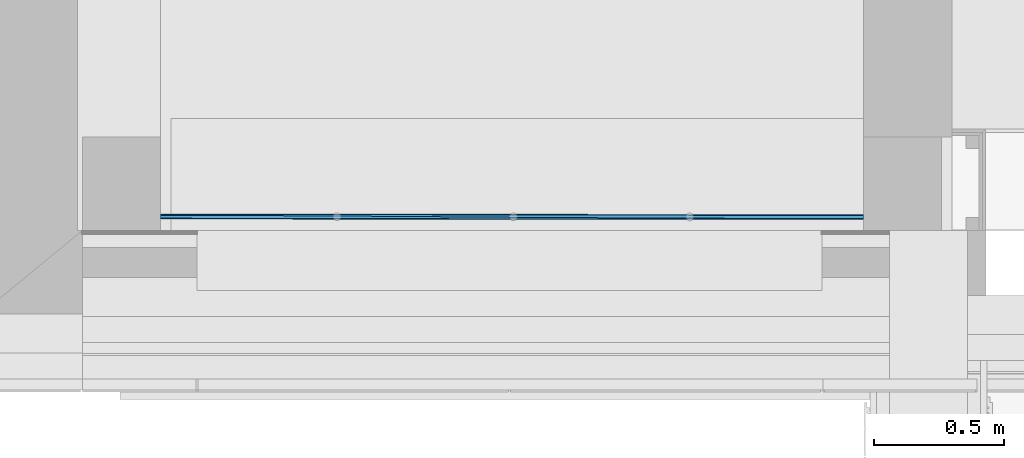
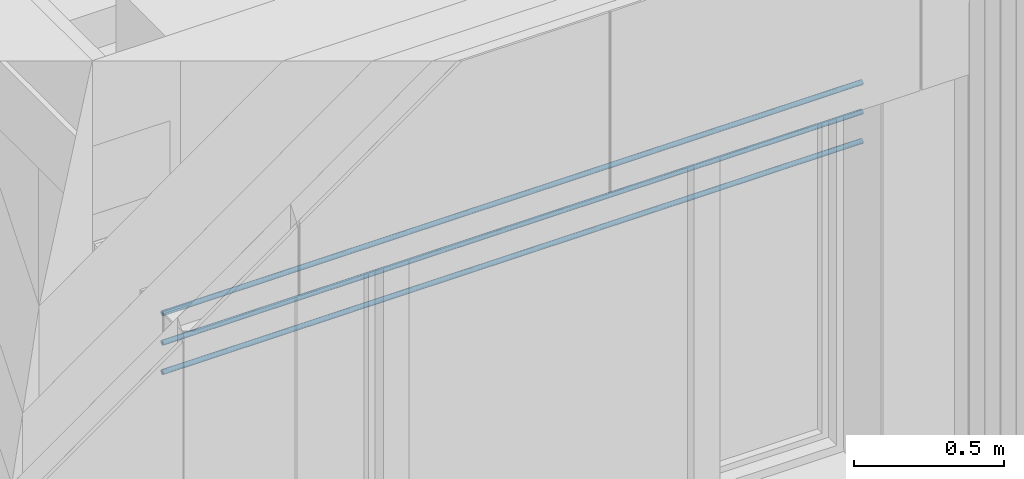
# One storey, part 75 of 418: 3 members, 1 element without a shape of its own.
"""IFC2X3 building model written with IfcOpenShell, lengths in millimetres."""

from ifc_helpers import new_model, entity, si_unit, converted_unit, derived_unit, money_unit, direction, frame, origin_with_axes, place, context, subcontext, project, spatial, faceted_brep, material, type_object, element, aggregate, save


model = new_model("IFC2X3")

# Units and contexts
model_context = context("Model", 3, precision=0.01, world=origin_with_axes(), true_north=direction((0.0, 1.0)))
body_context = subcontext(model_context, "Body", "Model", "MODEL_VIEW")
ifc_project = project(units=[si_unit("LENGTHUNIT", "METRE", prefix="MILLI"), si_unit("AREAUNIT", "SQUARE_METRE"), si_unit("VOLUMEUNIT", "CUBIC_METRE"), converted_unit("PLANEANGLEUNIT", "DEGREE", entity("IfcPlaneAngleMeasure", 0.0174532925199), si_unit("PLANEANGLEUNIT", "RADIAN"), dimensions=[0, 0, 0, 0, 0, 0, 0]), si_unit("SOLIDANGLEUNIT", "STERADIAN"), money_unit("EUR"), converted_unit("TIMEUNIT", "Year", entity("IfcTimeMeasure", 31556926.0), si_unit("TIMEUNIT", "SECOND"), dimensions=[0, 0, 1, 0, 0, 0, 0]), si_unit("MASSUNIT", "GRAM", prefix="KILO"), si_unit("THERMODYNAMICTEMPERATUREUNIT", "DEGREE_CELSIUS"), si_unit("LUMINOUSINTENSITYUNIT", "LUMEN"), si_unit("ENERGYUNIT", "JOULE", prefix="MEGA"), derived_unit("THERMALCONDUCTANCEUNIT", [(si_unit("POWERUNIT", "WATT"), 1), (si_unit("LENGTHUNIT", "METRE"), -1), (si_unit("THERMODYNAMICTEMPERATUREUNIT", "KELVIN"), -1)]), derived_unit("SPECIFICHEATCAPACITYUNIT", [(si_unit("ENERGYUNIT", "JOULE"), 1), (si_unit("MASSUNIT", "GRAM", prefix="KILO"), -1), (si_unit("THERMODYNAMICTEMPERATUREUNIT", "KELVIN"), -1)]), derived_unit("MASSDENSITYUNIT", [(si_unit("MASSUNIT", "GRAM", prefix="KILO"), 1), (si_unit("VOLUMEUNIT", "CUBIC_METRE"), -1)])], contexts=[model_context])

# Site, building, storey
site_placement = place(None, origin_with_axes())
site = spatial("IfcSite", under=ifc_project, at=site_placement, Name="Paldiski mnt 245/1, Tallinn, Harjumaa", CompositionType="COMPLEX")
building_placement = place(site_placement, origin_with_axes())
building = spatial("IfcBuilding", under=site, at=building_placement, Name="RKAS Hoone üldnimetus (kasutust iseloomustav) -> IFC Project Manager -> SOLIBRI", CompositionType="ELEMENT")
storey_placement = place(building_placement, origin_with_axes())
storey = spatial("IfcBuildingStorey", under=building, at=storey_placement, Name="Esimene korrus", CompositionType="ELEMENT", Elevation=0.0)

# Railing, members
railing_type = type_object("IfcRailingType", Name="Railing Type", PredefinedType="NOTDEFINED")
railing_placement = place(storey_placement, frame((-47325.2205646, -12456.5621002, 1891.0), z_axis=(0.0, 0.0, 1.0), x_axis=(-0.773149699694, -0.634223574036, 0.0)))
railing = element("IfcRailing", 1, at=railing_placement, inside=storey, type_object=railing_type, Name="PIIRE", PredefinedType="NOTDEFINED")
ifc_material = material(Name="ET-07_Teras - Roostevaba")
member_type = type_object("IfcMemberType", Name="IfcMember", PredefinedType="USERDEFINED")
member_1_placement = place(railing_placement, frame((-1070.36853265, 879.288436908, -14.1421356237), z_axis=(0.0, 0.0, 1.0), x_axis=(-0.773149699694, 0.634223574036, 0.0)))
member_1 = element("IfcMember", 2, at=member_1_placement, type_object=member_type, material=ifc_material, Name="Piirde alaosa - 001", ObjectType="Rail", context=body_context, shape_type="Brep", body=[
    faceted_brep([(-1349.99301854, 10.9424945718, 14.1421356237), (-1349.99312461, 10.790572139, 15.8786174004), (1350.00687539, 8.90557812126, 15.8786174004), (1350.00698146, 9.05750055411, 14.1421356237), (-1349.99312461, 10.790572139, 12.4056538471), (-1349.99343958, 10.3394209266, 10.7219341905), (-1349.99395388, 9.60274893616, 9.14213562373), (-1349.99465189, 8.60293957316, 7.71425952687), (-1349.99551241, 7.37037153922, 6.48169119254), (-1349.99650927, 5.94249579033, 5.48188158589), (-1349.9976122, 4.36269760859, 4.74520941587), (-1349.99878768, 2.67897836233, 4.29405809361), (-1350.0, 0.942497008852, 4.14213562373), (-1350.00121232, -0.793984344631, 4.29405809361), (-1350.0023878, -2.47770359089, 4.74520941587), (-1350.00349073, -4.05750177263, 5.48188158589), (-1350.00448759, -5.48537752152, 6.48169119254), (-1350.00534811, -6.71794555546, 7.71425952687), (-1350.00604612, -7.71775491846, 9.14213562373), (-1350.00656042, -8.45442690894, 10.7219341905), (-1350.00687539, -8.90557812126, 12.4056538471), (-1350.00698146, -9.05750055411, 14.1421356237), (-1350.00687539, -8.90557812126, 15.8786174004), (-1350.00656042, -8.45442690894, 17.562337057), (-1350.00604612, -7.71775491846, 19.1421356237), (-1350.00534811, -6.71794555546, 20.5700117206), (-1350.00448759, -5.48537752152, 21.8025800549), (-1350.00349073, -4.05750177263, 22.8023896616), (-1350.0023878, -2.47770359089, 23.5390618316), (-1350.00121232, -0.793984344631, 23.9902131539), (-1350.0, 0.942497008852, 24.1421356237), (-1349.99878768, 2.67897836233, 23.9902131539), (-1349.9976122, 4.36269760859, 23.5390618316), (-1349.99650927, 5.94249579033, 22.8023896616), (-1349.99551241, 7.37037153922, 21.8025800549), (-1349.99465189, 8.60293957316, 20.5700117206), (-1349.99395388, 9.60274893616, 19.1421356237), (-1349.99343958, 10.3394209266, 17.562337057), (-1349.9961602, 6.44249566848, 14.1421356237), (-1349.99621853, 6.35893833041, 15.0972006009), (-1349.99639177, 6.11080516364, 16.023246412), (-1349.99667463, 5.70563556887, 16.8921356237), (-1349.99705854, 5.15574041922, 17.677467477), (-1349.99753182, 4.47782800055, 18.3553800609), (-1349.9980801, 3.69249633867, 18.9052753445), (-1349.99868671, 2.82360733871, 19.3104450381), (-1349.99933323, 1.89756175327, 19.5585782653), (-1350.0, 0.942497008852, 19.6421356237), (-1350.00066677, -0.0125677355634, 19.5585782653), (-1350.00131329, -0.938613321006, 19.3104450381), (-1350.0019199, -1.80750232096, 18.9052753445), (-1350.00246818, -2.59283398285, 18.3553800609), (-1350.00294146, -3.27074640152, 17.677467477), (-1350.00332537, -3.82064155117, 16.8921356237), (-1350.00360823, -4.22581114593, 16.023246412), (-1350.00378147, -4.47394431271, 15.0972006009), (-1350.0038398, -4.55750165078, 14.1421356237), (-1350.00378147, -4.47394431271, 13.1870706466), (-1350.00360823, -4.22581114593, 12.2610248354), (-1350.00332537, -3.82064155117, 11.3921356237), (-1350.00294146, -3.27074640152, 10.6068037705), (-1350.00246818, -2.59283398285, 9.92889118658), (-1350.0019199, -1.80750232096, 9.37899590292), (-1350.00131329, -0.938613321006, 8.97382620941), (-1350.00066677, -0.0125677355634, 8.72569298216), (-1350.0, 0.942497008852, 8.64213562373), (-1349.99933323, 1.89756175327, 8.72569298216), (-1349.99868671, 2.82360733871, 8.97382620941), (-1349.9980801, 3.69249633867, 9.37899590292), (-1349.99753182, 4.47782800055, 9.92889118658), (-1349.99705854, 5.15574041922, 10.6068037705), (-1349.99667463, 5.70563556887, 11.3921356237), (-1349.99639177, 6.11080516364, 12.2610248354), (-1349.99621853, 6.35893833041, 13.1870706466), (1350.00656042, 8.45442690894, 17.562337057), (1350.00604612, 7.71775491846, 19.1421356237), (1350.00534811, 6.71794555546, 20.5700117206), (1350.00448759, 5.48537752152, 21.8025800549), (1350.00349073, 4.05750177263, 22.8023896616), (1350.0023878, 2.47770359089, 23.5390618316), (1350.00121232, 0.793984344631, 23.9902131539), (1350.0, -0.942497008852, 24.1421356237), (1349.99878768, -2.67897836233, 23.9902131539), (1349.9976122, -4.36269760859, 23.5390618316), (1349.99650927, -5.94249579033, 22.8023896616), (1349.99551241, -7.37037153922, 21.8025800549), (1349.99465189, -8.60293957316, 20.5700117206), (1349.99395388, -9.60274893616, 19.1421356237), (1349.99343958, -10.3394209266, 17.562337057), (1349.99312461, -10.790572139, 15.8786174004), (1349.99301854, -10.9424945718, 14.1421356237), (1349.99312461, -10.790572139, 12.4056538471), (1349.99343958, -10.3394209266, 10.7219341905), (1349.99395388, -9.60274893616, 9.14213562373), (1349.99465189, -8.60293957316, 7.71425952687), (1349.99551241, -7.37037153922, 6.48169119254), (1349.99650927, -5.94249579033, 5.48188158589), (1349.9976122, -4.36269760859, 4.74520941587), (1349.99878768, -2.67897836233, 4.29405809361), (1350.0, -0.942497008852, 4.14213562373), (1350.00121232, 0.793984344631, 4.29405809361), (1350.0023878, 2.47770359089, 4.74520941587), (1350.00349073, 4.05750177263, 5.48188158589), (1350.00448759, 5.48537752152, 6.48169119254), (1350.00534811, 6.71794555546, 7.71425952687), (1350.00604612, 7.71775491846, 9.14213562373), (1350.00656042, 8.45442690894, 10.7219341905), (1350.00687539, 8.90557812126, 12.4056538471), (1350.0038398, 4.55750165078, 14.1421356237), (1350.00378147, 4.47394431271, 13.1870706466), (1350.00360823, 4.22581114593, 12.2610248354), (1350.00332537, 3.82064155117, 11.3921356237), (1350.00294146, 3.27074640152, 10.6068037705), (1350.00246818, 2.59283398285, 9.92889118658), (1350.0019199, 1.80750232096, 9.37899590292), (1350.00131329, 0.938613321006, 8.97382620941), (1350.00066677, 0.0125677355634, 8.72569298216), (1350.0, -0.942497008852, 8.64213562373), (1349.99933323, -1.89756175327, 8.72569298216), (1349.99868671, -2.82360733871, 8.97382620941), (1349.9980801, -3.69249633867, 9.37899590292), (1349.99753182, -4.47782800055, 9.92889118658), (1349.99705854, -5.15574041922, 10.6068037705), (1349.99667463, -5.70563556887, 11.3921356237), (1349.99639177, -6.11080516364, 12.2610248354), (1349.99621853, -6.35893833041, 13.1870706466), (1349.9961602, -6.44249566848, 14.1421356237), (1349.99621853, -6.35893833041, 15.0972006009), (1349.99639177, -6.11080516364, 16.023246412), (1349.99667463, -5.70563556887, 16.8921356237), (1349.99705854, -5.15574041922, 17.677467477), (1349.99753182, -4.47782800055, 18.3553800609), (1349.9980801, -3.69249633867, 18.9052753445), (1349.99868671, -2.82360733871, 19.3104450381), (1349.99933323, -1.89756175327, 19.5585782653), (1350.0, -0.942497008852, 19.6421356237), (1350.00066677, 0.0125677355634, 19.5585782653), (1350.00131329, 0.938613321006, 19.3104450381), (1350.0019199, 1.80750232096, 18.9052753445), (1350.00246818, 2.59283398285, 18.3553800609), (1350.00294146, 3.27074640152, 17.677467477), (1350.00332537, 3.82064155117, 16.8921356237), (1350.00360823, 4.22581114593, 16.023246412), (1350.00378147, 4.47394431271, 15.0972006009)], [[[0, 1, 2, 3]], [[0, 4, 5, 6, 7, 8, 9, 10, 11, 12, 13, 14, 15, 16, 17, 18, 19, 20, 21, 22, 23, 24, 25, 26, 27, 28, 29, 30, 31, 32, 33, 34, 35, 36, 37, 1], [38, 39, 40, 41, 42, 43, 44, 45, 46, 47, 48, 49, 50, 51, 52, 53, 54, 55, 56, 57, 58, 59, 60, 61, 62, 63, 64, 65, 66, 67, 68, 69, 70, 71, 72, 73]], [[1, 37, 74, 2]], [[3, 2, 74, 75, 76, 77, 78, 79, 80, 81, 82, 83, 84, 85, 86, 87, 88, 89, 90, 91, 92, 93, 94, 95, 96, 97, 98, 99, 100, 101, 102, 103, 104, 105, 106, 107], [108, 109, 110, 111, 112, 113, 114, 115, 116, 117, 118, 119, 120, 121, 122, 123, 124, 125, 126, 127, 128, 129, 130, 131, 132, 133, 134, 135, 136, 137, 138, 139, 140, 141, 142, 143]], [[4, 0, 3, 107]], [[5, 4, 107, 106]], [[6, 5, 106, 105]], [[7, 6, 105, 104]], [[8, 7, 104, 103]], [[9, 8, 103, 102]], [[10, 9, 102, 101]], [[11, 10, 101, 100]], [[12, 11, 100, 99]], [[13, 12, 99, 98]], [[14, 13, 98, 97]], [[15, 14, 97, 96]], [[16, 15, 96, 95]], [[17, 16, 95, 94]], [[18, 17, 94, 93]], [[19, 18, 93, 92]], [[20, 19, 92, 91]], [[21, 20, 91, 90]], [[22, 21, 90, 89]], [[23, 22, 89, 88]], [[24, 23, 88, 87]], [[25, 24, 87, 86]], [[26, 25, 86, 85]], [[27, 26, 85, 84]], [[28, 27, 84, 83]], [[29, 28, 83, 82]], [[30, 29, 82, 81]], [[31, 30, 81, 80]], [[32, 31, 80, 79]], [[33, 32, 79, 78]], [[34, 33, 78, 77]], [[35, 34, 77, 76]], [[36, 35, 76, 75]], [[37, 36, 75, 74]], [[39, 38, 108, 143]], [[40, 39, 143, 142]], [[41, 40, 142, 141]], [[42, 41, 141, 140]], [[43, 42, 140, 139]], [[44, 43, 139, 138]], [[45, 44, 138, 137]], [[46, 45, 137, 136]], [[47, 46, 136, 135]], [[48, 47, 135, 134]], [[49, 48, 134, 133]], [[50, 49, 133, 132]], [[51, 50, 132, 131]], [[52, 51, 131, 130]], [[53, 52, 130, 129]], [[54, 53, 129, 128]], [[55, 54, 128, 127]], [[56, 55, 127, 126]], [[57, 56, 126, 125]], [[58, 57, 125, 124]], [[59, 58, 124, 123]], [[60, 59, 123, 122]], [[61, 60, 122, 121]], [[62, 61, 121, 120]], [[63, 62, 120, 119]], [[64, 63, 119, 118]], [[65, 64, 118, 117]], [[66, 65, 117, 116]], [[67, 66, 116, 115]], [[68, 67, 115, 114]], [[69, 68, 114, 113]], [[70, 69, 113, 112]], [[71, 70, 112, 111]], [[72, 71, 111, 110]], [[73, 72, 110, 109]], [[38, 73, 109, 108]]]),
])
member_2_placement = place(railing_placement, frame((-1070.36853265, 879.288436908, 105.857864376), z_axis=(0.0, 0.0, 1.0), x_axis=(-0.773149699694, 0.634223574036, 0.0)))
member_2 = element("IfcMember", 3, at=member_2_placement, type_object=member_type, material=ifc_material, Name="Piirde alaosa - 001", ObjectType="Rail", context=body_context, shape_type="Brep", body=[
    faceted_brep([(-1349.99301854, 10.9424945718, 14.1421356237), (-1349.99312461, 10.790572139, 15.8786174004), (1350.00687539, 8.90557812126, 15.8786174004), (1350.00698146, 9.05750055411, 14.1421356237), (-1349.99312461, 10.790572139, 12.4056538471), (-1349.99343958, 10.3394209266, 10.7219341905), (-1349.99395388, 9.60274893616, 9.14213562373), (-1349.99465189, 8.60293957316, 7.71425952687), (-1349.99551241, 7.37037153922, 6.48169119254), (-1349.99650927, 5.94249579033, 5.48188158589), (-1349.9976122, 4.36269760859, 4.74520941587), (-1349.99878768, 2.67897836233, 4.29405809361), (-1350.0, 0.942497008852, 4.14213562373), (-1350.00121232, -0.793984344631, 4.29405809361), (-1350.0023878, -2.47770359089, 4.74520941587), (-1350.00349073, -4.05750177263, 5.48188158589), (-1350.00448759, -5.48537752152, 6.48169119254), (-1350.00534811, -6.71794555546, 7.71425952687), (-1350.00604612, -7.71775491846, 9.14213562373), (-1350.00656042, -8.45442690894, 10.7219341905), (-1350.00687539, -8.90557812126, 12.4056538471), (-1350.00698146, -9.05750055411, 14.1421356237), (-1350.00687539, -8.90557812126, 15.8786174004), (-1350.00656042, -8.45442690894, 17.562337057), (-1350.00604612, -7.71775491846, 19.1421356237), (-1350.00534811, -6.71794555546, 20.5700117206), (-1350.00448759, -5.48537752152, 21.8025800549), (-1350.00349073, -4.05750177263, 22.8023896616), (-1350.0023878, -2.47770359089, 23.5390618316), (-1350.00121232, -0.793984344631, 23.9902131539), (-1350.0, 0.942497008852, 24.1421356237), (-1349.99878768, 2.67897836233, 23.9902131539), (-1349.9976122, 4.36269760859, 23.5390618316), (-1349.99650927, 5.94249579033, 22.8023896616), (-1349.99551241, 7.37037153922, 21.8025800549), (-1349.99465189, 8.60293957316, 20.5700117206), (-1349.99395388, 9.60274893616, 19.1421356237), (-1349.99343958, 10.3394209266, 17.562337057), (-1349.9961602, 6.44249566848, 14.1421356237), (-1349.99621853, 6.35893833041, 15.0972006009), (-1349.99639177, 6.11080516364, 16.023246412), (-1349.99667463, 5.70563556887, 16.8921356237), (-1349.99705854, 5.15574041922, 17.677467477), (-1349.99753182, 4.47782800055, 18.3553800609), (-1349.9980801, 3.69249633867, 18.9052753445), (-1349.99868671, 2.82360733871, 19.3104450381), (-1349.99933323, 1.89756175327, 19.5585782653), (-1350.0, 0.942497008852, 19.6421356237), (-1350.00066677, -0.0125677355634, 19.5585782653), (-1350.00131329, -0.938613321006, 19.3104450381), (-1350.0019199, -1.80750232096, 18.9052753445), (-1350.00246818, -2.59283398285, 18.3553800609), (-1350.00294146, -3.27074640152, 17.677467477), (-1350.00332537, -3.82064155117, 16.8921356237), (-1350.00360823, -4.22581114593, 16.023246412), (-1350.00378147, -4.47394431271, 15.0972006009), (-1350.0038398, -4.55750165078, 14.1421356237), (-1350.00378147, -4.47394431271, 13.1870706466), (-1350.00360823, -4.22581114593, 12.2610248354), (-1350.00332537, -3.82064155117, 11.3921356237), (-1350.00294146, -3.27074640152, 10.6068037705), (-1350.00246818, -2.59283398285, 9.92889118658), (-1350.0019199, -1.80750232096, 9.37899590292), (-1350.00131329, -0.938613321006, 8.97382620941), (-1350.00066677, -0.0125677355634, 8.72569298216), (-1350.0, 0.942497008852, 8.64213562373), (-1349.99933323, 1.89756175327, 8.72569298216), (-1349.99868671, 2.82360733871, 8.97382620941), (-1349.9980801, 3.69249633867, 9.37899590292), (-1349.99753182, 4.47782800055, 9.92889118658), (-1349.99705854, 5.15574041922, 10.6068037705), (-1349.99667463, 5.70563556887, 11.3921356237), (-1349.99639177, 6.11080516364, 12.2610248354), (-1349.99621853, 6.35893833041, 13.1870706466), (1350.00656042, 8.45442690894, 17.562337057), (1350.00604612, 7.71775491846, 19.1421356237), (1350.00534811, 6.71794555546, 20.5700117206), (1350.00448759, 5.48537752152, 21.8025800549), (1350.00349073, 4.05750177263, 22.8023896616), (1350.0023878, 2.47770359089, 23.5390618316), (1350.00121232, 0.793984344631, 23.9902131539), (1350.0, -0.942497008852, 24.1421356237), (1349.99878768, -2.67897836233, 23.9902131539), (1349.9976122, -4.36269760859, 23.5390618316), (1349.99650927, -5.94249579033, 22.8023896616), (1349.99551241, -7.37037153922, 21.8025800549), (1349.99465189, -8.60293957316, 20.5700117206), (1349.99395388, -9.60274893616, 19.1421356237), (1349.99343958, -10.3394209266, 17.562337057), (1349.99312461, -10.790572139, 15.8786174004), (1349.99301854, -10.9424945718, 14.1421356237), (1349.99312461, -10.790572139, 12.4056538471), (1349.99343958, -10.3394209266, 10.7219341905), (1349.99395388, -9.60274893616, 9.14213562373), (1349.99465189, -8.60293957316, 7.71425952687), (1349.99551241, -7.37037153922, 6.48169119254), (1349.99650927, -5.94249579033, 5.48188158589), (1349.9976122, -4.36269760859, 4.74520941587), (1349.99878768, -2.67897836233, 4.29405809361), (1350.0, -0.942497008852, 4.14213562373), (1350.00121232, 0.793984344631, 4.29405809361), (1350.0023878, 2.47770359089, 4.74520941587), (1350.00349073, 4.05750177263, 5.48188158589), (1350.00448759, 5.48537752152, 6.48169119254), (1350.00534811, 6.71794555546, 7.71425952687), (1350.00604612, 7.71775491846, 9.14213562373), (1350.00656042, 8.45442690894, 10.7219341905), (1350.00687539, 8.90557812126, 12.4056538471), (1350.0038398, 4.55750165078, 14.1421356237), (1350.00378147, 4.47394431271, 13.1870706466), (1350.00360823, 4.22581114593, 12.2610248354), (1350.00332537, 3.82064155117, 11.3921356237), (1350.00294146, 3.27074640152, 10.6068037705), (1350.00246818, 2.59283398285, 9.92889118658), (1350.0019199, 1.80750232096, 9.37899590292), (1350.00131329, 0.938613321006, 8.97382620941), (1350.00066677, 0.0125677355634, 8.72569298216), (1350.0, -0.942497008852, 8.64213562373), (1349.99933323, -1.89756175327, 8.72569298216), (1349.99868671, -2.82360733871, 8.97382620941), (1349.9980801, -3.69249633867, 9.37899590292), (1349.99753182, -4.47782800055, 9.92889118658), (1349.99705854, -5.15574041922, 10.6068037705), (1349.99667463, -5.70563556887, 11.3921356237), (1349.99639177, -6.11080516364, 12.2610248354), (1349.99621853, -6.35893833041, 13.1870706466), (1349.9961602, -6.44249566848, 14.1421356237), (1349.99621853, -6.35893833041, 15.0972006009), (1349.99639177, -6.11080516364, 16.023246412), (1349.99667463, -5.70563556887, 16.8921356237), (1349.99705854, -5.15574041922, 17.677467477), (1349.99753182, -4.47782800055, 18.3553800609), (1349.9980801, -3.69249633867, 18.9052753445), (1349.99868671, -2.82360733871, 19.3104450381), (1349.99933323, -1.89756175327, 19.5585782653), (1350.0, -0.942497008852, 19.6421356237), (1350.00066677, 0.0125677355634, 19.5585782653), (1350.00131329, 0.938613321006, 19.3104450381), (1350.0019199, 1.80750232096, 18.9052753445), (1350.00246818, 2.59283398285, 18.3553800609), (1350.00294146, 3.27074640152, 17.677467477), (1350.00332537, 3.82064155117, 16.8921356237), (1350.00360823, 4.22581114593, 16.023246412), (1350.00378147, 4.47394431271, 15.0972006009)], [[[0, 1, 2, 3]], [[0, 4, 5, 6, 7, 8, 9, 10, 11, 12, 13, 14, 15, 16, 17, 18, 19, 20, 21, 22, 23, 24, 25, 26, 27, 28, 29, 30, 31, 32, 33, 34, 35, 36, 37, 1], [38, 39, 40, 41, 42, 43, 44, 45, 46, 47, 48, 49, 50, 51, 52, 53, 54, 55, 56, 57, 58, 59, 60, 61, 62, 63, 64, 65, 66, 67, 68, 69, 70, 71, 72, 73]], [[1, 37, 74, 2]], [[3, 2, 74, 75, 76, 77, 78, 79, 80, 81, 82, 83, 84, 85, 86, 87, 88, 89, 90, 91, 92, 93, 94, 95, 96, 97, 98, 99, 100, 101, 102, 103, 104, 105, 106, 107], [108, 109, 110, 111, 112, 113, 114, 115, 116, 117, 118, 119, 120, 121, 122, 123, 124, 125, 126, 127, 128, 129, 130, 131, 132, 133, 134, 135, 136, 137, 138, 139, 140, 141, 142, 143]], [[4, 0, 3, 107]], [[5, 4, 107, 106]], [[6, 5, 106, 105]], [[7, 6, 105, 104]], [[8, 7, 104, 103]], [[9, 8, 103, 102]], [[10, 9, 102, 101]], [[11, 10, 101, 100]], [[12, 11, 100, 99]], [[13, 12, 99, 98]], [[14, 13, 98, 97]], [[15, 14, 97, 96]], [[16, 15, 96, 95]], [[17, 16, 95, 94]], [[18, 17, 94, 93]], [[19, 18, 93, 92]], [[20, 19, 92, 91]], [[21, 20, 91, 90]], [[22, 21, 90, 89]], [[23, 22, 89, 88]], [[24, 23, 88, 87]], [[25, 24, 87, 86]], [[26, 25, 86, 85]], [[27, 26, 85, 84]], [[28, 27, 84, 83]], [[29, 28, 83, 82]], [[30, 29, 82, 81]], [[31, 30, 81, 80]], [[32, 31, 80, 79]], [[33, 32, 79, 78]], [[34, 33, 78, 77]], [[35, 34, 77, 76]], [[36, 35, 76, 75]], [[37, 36, 75, 74]], [[39, 38, 108, 143]], [[40, 39, 143, 142]], [[41, 40, 142, 141]], [[42, 41, 141, 140]], [[43, 42, 140, 139]], [[44, 43, 139, 138]], [[45, 44, 138, 137]], [[46, 45, 137, 136]], [[47, 46, 136, 135]], [[48, 47, 135, 134]], [[49, 48, 134, 133]], [[50, 49, 133, 132]], [[51, 50, 132, 131]], [[52, 51, 131, 130]], [[53, 52, 130, 129]], [[54, 53, 129, 128]], [[55, 54, 128, 127]], [[56, 55, 127, 126]], [[57, 56, 126, 125]], [[58, 57, 125, 124]], [[59, 58, 124, 123]], [[60, 59, 123, 122]], [[61, 60, 122, 121]], [[62, 61, 121, 120]], [[63, 62, 120, 119]], [[64, 63, 119, 118]], [[65, 64, 118, 117]], [[66, 65, 117, 116]], [[67, 66, 116, 115]], [[68, 67, 115, 114]], [[69, 68, 114, 113]], [[70, 69, 113, 112]], [[71, 70, 112, 111]], [[72, 71, 111, 110]], [[73, 72, 110, 109]], [[38, 73, 109, 108]]]),
])
member_3_placement = place(railing_placement, frame((-1070.36853265, 879.288436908, 225.857864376), z_axis=(0.0, 0.0, 1.0), x_axis=(-0.773149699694, 0.634223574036, 0.0)))
member_3 = element("IfcMember", 4, at=member_3_placement, type_object=member_type, material=ifc_material, Name="Piirde alaosa - 001", ObjectType="Rail", context=body_context, shape_type="Brep", body=[
    faceted_brep([(-1349.99301854, 10.9424945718, 14.1421356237), (-1349.99312461, 10.790572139, 15.8786174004), (1350.00687539, 8.90557812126, 15.8786174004), (1350.00698146, 9.05750055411, 14.1421356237), (-1349.99312461, 10.790572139, 12.4056538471), (-1349.99343958, 10.3394209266, 10.7219341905), (-1349.99395388, 9.60274893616, 9.14213562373), (-1349.99465189, 8.60293957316, 7.71425952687), (-1349.99551241, 7.37037153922, 6.48169119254), (-1349.99650927, 5.94249579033, 5.48188158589), (-1349.9976122, 4.36269760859, 4.74520941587), (-1349.99878768, 2.67897836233, 4.29405809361), (-1350.0, 0.942497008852, 4.14213562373), (-1350.00121232, -0.793984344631, 4.29405809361), (-1350.0023878, -2.47770359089, 4.74520941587), (-1350.00349073, -4.05750177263, 5.48188158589), (-1350.00448759, -5.48537752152, 6.48169119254), (-1350.00534811, -6.71794555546, 7.71425952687), (-1350.00604612, -7.71775491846, 9.14213562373), (-1350.00656042, -8.45442690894, 10.7219341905), (-1350.00687539, -8.90557812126, 12.4056538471), (-1350.00698146, -9.05750055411, 14.1421356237), (-1350.00687539, -8.90557812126, 15.8786174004), (-1350.00656042, -8.45442690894, 17.562337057), (-1350.00604612, -7.71775491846, 19.1421356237), (-1350.00534811, -6.71794555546, 20.5700117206), (-1350.00448759, -5.48537752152, 21.8025800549), (-1350.00349073, -4.05750177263, 22.8023896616), (-1350.0023878, -2.47770359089, 23.5390618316), (-1350.00121232, -0.793984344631, 23.9902131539), (-1350.0, 0.942497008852, 24.1421356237), (-1349.99878768, 2.67897836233, 23.9902131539), (-1349.9976122, 4.36269760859, 23.5390618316), (-1349.99650927, 5.94249579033, 22.8023896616), (-1349.99551241, 7.37037153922, 21.8025800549), (-1349.99465189, 8.60293957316, 20.5700117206), (-1349.99395388, 9.60274893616, 19.1421356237), (-1349.99343958, 10.3394209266, 17.562337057), (-1349.9961602, 6.44249566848, 14.1421356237), (-1349.99621853, 6.35893833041, 15.0972006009), (-1349.99639177, 6.11080516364, 16.023246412), (-1349.99667463, 5.70563556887, 16.8921356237), (-1349.99705854, 5.15574041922, 17.677467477), (-1349.99753182, 4.47782800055, 18.3553800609), (-1349.9980801, 3.69249633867, 18.9052753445), (-1349.99868671, 2.82360733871, 19.3104450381), (-1349.99933323, 1.89756175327, 19.5585782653), (-1350.0, 0.942497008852, 19.6421356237), (-1350.00066677, -0.0125677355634, 19.5585782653), (-1350.00131329, -0.938613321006, 19.3104450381), (-1350.0019199, -1.80750232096, 18.9052753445), (-1350.00246818, -2.59283398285, 18.3553800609), (-1350.00294146, -3.27074640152, 17.677467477), (-1350.00332537, -3.82064155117, 16.8921356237), (-1350.00360823, -4.22581114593, 16.023246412), (-1350.00378147, -4.47394431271, 15.0972006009), (-1350.0038398, -4.55750165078, 14.1421356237), (-1350.00378147, -4.47394431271, 13.1870706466), (-1350.00360823, -4.22581114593, 12.2610248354), (-1350.00332537, -3.82064155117, 11.3921356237), (-1350.00294146, -3.27074640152, 10.6068037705), (-1350.00246818, -2.59283398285, 9.92889118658), (-1350.0019199, -1.80750232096, 9.37899590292), (-1350.00131329, -0.938613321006, 8.97382620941), (-1350.00066677, -0.0125677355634, 8.72569298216), (-1350.0, 0.942497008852, 8.64213562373), (-1349.99933323, 1.89756175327, 8.72569298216), (-1349.99868671, 2.82360733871, 8.97382620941), (-1349.9980801, 3.69249633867, 9.37899590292), (-1349.99753182, 4.47782800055, 9.92889118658), (-1349.99705854, 5.15574041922, 10.6068037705), (-1349.99667463, 5.70563556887, 11.3921356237), (-1349.99639177, 6.11080516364, 12.2610248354), (-1349.99621853, 6.35893833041, 13.1870706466), (1350.00656042, 8.45442690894, 17.562337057), (1350.00604612, 7.71775491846, 19.1421356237), (1350.00534811, 6.71794555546, 20.5700117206), (1350.00448759, 5.48537752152, 21.8025800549), (1350.00349073, 4.05750177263, 22.8023896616), (1350.0023878, 2.47770359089, 23.5390618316), (1350.00121232, 0.793984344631, 23.9902131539), (1350.0, -0.942497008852, 24.1421356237), (1349.99878768, -2.67897836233, 23.9902131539), (1349.9976122, -4.36269760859, 23.5390618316), (1349.99650927, -5.94249579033, 22.8023896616), (1349.99551241, -7.37037153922, 21.8025800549), (1349.99465189, -8.60293957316, 20.5700117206), (1349.99395388, -9.60274893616, 19.1421356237), (1349.99343958, -10.3394209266, 17.562337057), (1349.99312461, -10.790572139, 15.8786174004), (1349.99301854, -10.9424945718, 14.1421356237), (1349.99312461, -10.790572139, 12.4056538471), (1349.99343958, -10.3394209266, 10.7219341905), (1349.99395388, -9.60274893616, 9.14213562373), (1349.99465189, -8.60293957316, 7.71425952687), (1349.99551241, -7.37037153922, 6.48169119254), (1349.99650927, -5.94249579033, 5.48188158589), (1349.9976122, -4.36269760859, 4.74520941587), (1349.99878768, -2.67897836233, 4.29405809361), (1350.0, -0.942497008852, 4.14213562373), (1350.00121232, 0.793984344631, 4.29405809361), (1350.0023878, 2.47770359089, 4.74520941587), (1350.00349073, 4.05750177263, 5.48188158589), (1350.00448759, 5.48537752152, 6.48169119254), (1350.00534811, 6.71794555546, 7.71425952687), (1350.00604612, 7.71775491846, 9.14213562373), (1350.00656042, 8.45442690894, 10.7219341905), (1350.00687539, 8.90557812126, 12.4056538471), (1350.0038398, 4.55750165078, 14.1421356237), (1350.00378147, 4.47394431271, 13.1870706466), (1350.00360823, 4.22581114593, 12.2610248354), (1350.00332537, 3.82064155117, 11.3921356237), (1350.00294146, 3.27074640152, 10.6068037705), (1350.00246818, 2.59283398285, 9.92889118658), (1350.0019199, 1.80750232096, 9.37899590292), (1350.00131329, 0.938613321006, 8.97382620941), (1350.00066677, 0.0125677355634, 8.72569298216), (1350.0, -0.942497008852, 8.64213562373), (1349.99933323, -1.89756175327, 8.72569298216), (1349.99868671, -2.82360733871, 8.97382620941), (1349.9980801, -3.69249633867, 9.37899590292), (1349.99753182, -4.47782800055, 9.92889118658), (1349.99705854, -5.15574041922, 10.6068037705), (1349.99667463, -5.70563556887, 11.3921356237), (1349.99639177, -6.11080516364, 12.2610248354), (1349.99621853, -6.35893833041, 13.1870706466), (1349.9961602, -6.44249566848, 14.1421356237), (1349.99621853, -6.35893833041, 15.0972006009), (1349.99639177, -6.11080516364, 16.023246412), (1349.99667463, -5.70563556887, 16.8921356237), (1349.99705854, -5.15574041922, 17.677467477), (1349.99753182, -4.47782800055, 18.3553800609), (1349.9980801, -3.69249633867, 18.9052753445), (1349.99868671, -2.82360733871, 19.3104450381), (1349.99933323, -1.89756175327, 19.5585782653), (1350.0, -0.942497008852, 19.6421356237), (1350.00066677, 0.0125677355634, 19.5585782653), (1350.00131329, 0.938613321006, 19.3104450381), (1350.0019199, 1.80750232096, 18.9052753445), (1350.00246818, 2.59283398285, 18.3553800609), (1350.00294146, 3.27074640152, 17.677467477), (1350.00332537, 3.82064155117, 16.8921356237), (1350.00360823, 4.22581114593, 16.023246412), (1350.00378147, 4.47394431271, 15.0972006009)], [[[0, 1, 2, 3]], [[0, 4, 5, 6, 7, 8, 9, 10, 11, 12, 13, 14, 15, 16, 17, 18, 19, 20, 21, 22, 23, 24, 25, 26, 27, 28, 29, 30, 31, 32, 33, 34, 35, 36, 37, 1], [38, 39, 40, 41, 42, 43, 44, 45, 46, 47, 48, 49, 50, 51, 52, 53, 54, 55, 56, 57, 58, 59, 60, 61, 62, 63, 64, 65, 66, 67, 68, 69, 70, 71, 72, 73]], [[1, 37, 74, 2]], [[3, 2, 74, 75, 76, 77, 78, 79, 80, 81, 82, 83, 84, 85, 86, 87, 88, 89, 90, 91, 92, 93, 94, 95, 96, 97, 98, 99, 100, 101, 102, 103, 104, 105, 106, 107], [108, 109, 110, 111, 112, 113, 114, 115, 116, 117, 118, 119, 120, 121, 122, 123, 124, 125, 126, 127, 128, 129, 130, 131, 132, 133, 134, 135, 136, 137, 138, 139, 140, 141, 142, 143]], [[4, 0, 3, 107]], [[5, 4, 107, 106]], [[6, 5, 106, 105]], [[7, 6, 105, 104]], [[8, 7, 104, 103]], [[9, 8, 103, 102]], [[10, 9, 102, 101]], [[11, 10, 101, 100]], [[12, 11, 100, 99]], [[13, 12, 99, 98]], [[14, 13, 98, 97]], [[15, 14, 97, 96]], [[16, 15, 96, 95]], [[17, 16, 95, 94]], [[18, 17, 94, 93]], [[19, 18, 93, 92]], [[20, 19, 92, 91]], [[21, 20, 91, 90]], [[22, 21, 90, 89]], [[23, 22, 89, 88]], [[24, 23, 88, 87]], [[25, 24, 87, 86]], [[26, 25, 86, 85]], [[27, 26, 85, 84]], [[28, 27, 84, 83]], [[29, 28, 83, 82]], [[30, 29, 82, 81]], [[31, 30, 81, 80]], [[32, 31, 80, 79]], [[33, 32, 79, 78]], [[34, 33, 78, 77]], [[35, 34, 77, 76]], [[36, 35, 76, 75]], [[37, 36, 75, 74]], [[39, 38, 108, 143]], [[40, 39, 143, 142]], [[41, 40, 142, 141]], [[42, 41, 141, 140]], [[43, 42, 140, 139]], [[44, 43, 139, 138]], [[45, 44, 138, 137]], [[46, 45, 137, 136]], [[47, 46, 136, 135]], [[48, 47, 135, 134]], [[49, 48, 134, 133]], [[50, 49, 133, 132]], [[51, 50, 132, 131]], [[52, 51, 131, 130]], [[53, 52, 130, 129]], [[54, 53, 129, 128]], [[55, 54, 128, 127]], [[56, 55, 127, 126]], [[57, 56, 126, 125]], [[58, 57, 125, 124]], [[59, 58, 124, 123]], [[60, 59, 123, 122]], [[61, 60, 122, 121]], [[62, 61, 121, 120]], [[63, 62, 120, 119]], [[64, 63, 119, 118]], [[65, 64, 118, 117]], [[66, 65, 117, 116]], [[67, 66, 116, 115]], [[68, 67, 115, 114]], [[69, 68, 114, 113]], [[70, 69, 113, 112]], [[71, 70, 112, 111]], [[72, 71, 111, 110]], [[73, 72, 110, 109]], [[38, 73, 109, 108]]]),
])
aggregate(railing, [member_1, member_2, member_3])

save(model, "model.ifc")
